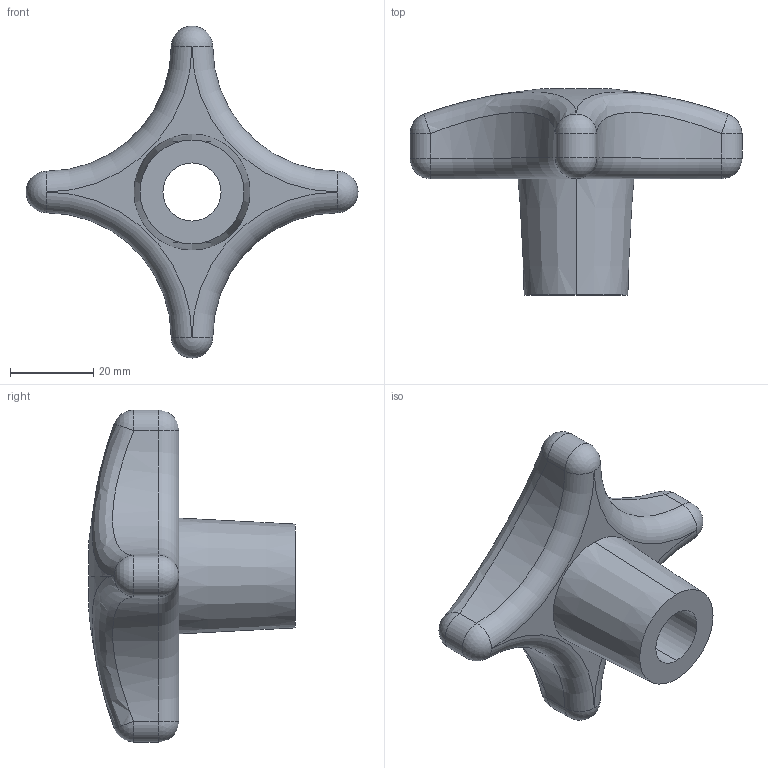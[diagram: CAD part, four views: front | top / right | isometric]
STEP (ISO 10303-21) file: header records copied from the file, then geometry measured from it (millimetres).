
FILE_DESCRIPTION (( 'STEP AP203' ), '1' );
FILE_NAME ('7000.W380.step', '2010-01-29T17:38:05', ( 'Wixroyd' ), ( 'Wixroyd' ), 'SwSTEP 2.0', 'SolidWorks 2009', '' );
FILE_SCHEMA (( 'CONFIG_CONTROL_DESIGN' ));
Length unit declared in the file: millimetre
Products named in the file (1): 7000.W380
Bounding box: 80 x 49.66 x 80 mm (x, y, z)
Volume: 47884 mm3; surface area: 12321.1 mm2
Topology: 1 solids, 1 shells, 36 faces, 77 edges, 40 vertices
Faces by surface type: cylinder 13, sphere 10, torus 4, bspline 4, plane 3, cone 2
Entity records: 3800 total; most frequent: CARTESIAN_POINT 2958, DIRECTION 181, ORIENTED_EDGE 146, AXIS2_PLACEMENT_3D 83, EDGE_CURVE 73, CIRCLE 50, VERTEX_POINT 40, EDGE_LOOP 39
